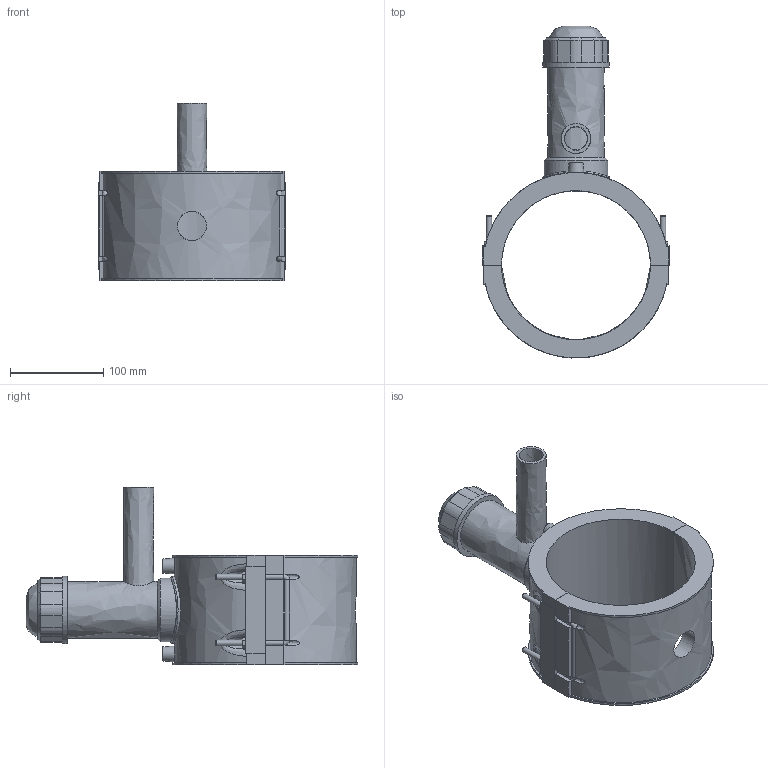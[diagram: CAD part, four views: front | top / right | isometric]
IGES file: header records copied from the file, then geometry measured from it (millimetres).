
Global section: file name: 4963P4160032; native system: Autodesk Inventor 2019; preprocessor: unknown; author: KIM; date: 20220317.113003; units: millimetre
Bounding box: 201 x 356.42 x 191 mm (x, y, z)
Volume: 1491248.3 mm3; surface area: 251990.9 mm2
Topology: 1 solids, 2 shells, 198 faces, 509 edges, 337 vertices
Faces by surface type: bspline 198
